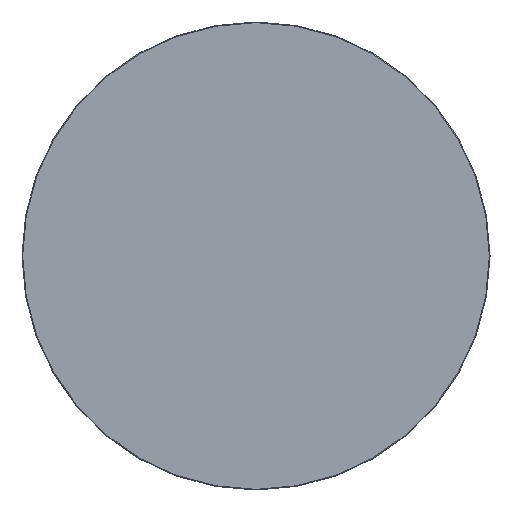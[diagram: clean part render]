
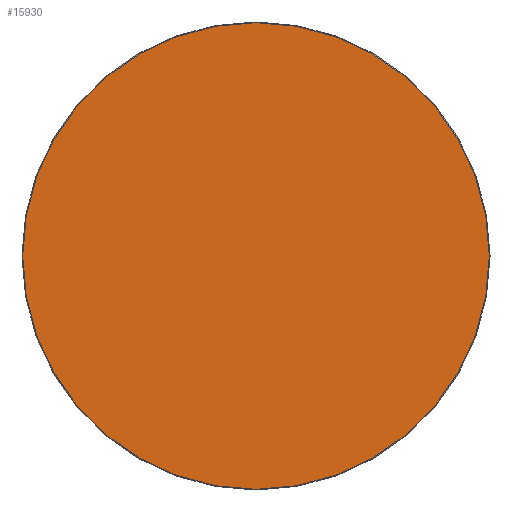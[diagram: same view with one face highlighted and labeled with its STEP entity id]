
A CAD part, top view. The second image highlights one B-rep face of the part: STEP entity #15930.
In plain terms, the highlighted planar face has unit normal (0, 0, 1).
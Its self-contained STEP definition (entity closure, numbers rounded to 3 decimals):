
#15855=CARTESIAN_POINT('',(0.,0.,20.));
#15856=DIRECTION('',(1.,0.,0.));
#15857=DIRECTION('',(0.,0.,1.));
#15858=AXIS2_PLACEMENT_3D('',#15855,#15857,#15856);
#15859=PLANE('',#15858);
#15860=CARTESIAN_POINT('',(-0.5,-498.5,20.));
#15861=VERTEX_POINT('',#15860);
#15862=CARTESIAN_POINT('',(0.5,-498.5,20.));
#15863=VERTEX_POINT('',#15862);
#15864=CARTESIAN_POINT('',(-0.5,-498.5,20.));
#15865=DIRECTION('',(1.,0.,0.));
#15866=VECTOR('',#15865,1.);
#15867=LINE('',#15864,#15866);
#15868=EDGE_CURVE('',#15861,#15863,#15867,.T.);
#15869=ORIENTED_EDGE('E105',*,*,#15868,.T.);
#15870=CARTESIAN_POINT('',(498.5,-0.5,20.));
#15871=VERTEX_POINT('',#15870);
#15872=CARTESIAN_POINT('',(0.5,-0.5,20.));
#15873=DIRECTION('',(0.,-1.,0.));
#15874=DIRECTION('',(0.,-0.,1.));
#15875=AXIS2_PLACEMENT_3D('',#15872,#15874,#15873);
#15876=CIRCLE('',#15875,498.);
#15877=EDGE_CURVE('',#15863,#15871,#15876,.T.);
#15878=ORIENTED_EDGE('E107',*,*,#15877,.T.);
#15879=CARTESIAN_POINT('',(498.5,0.5,20.));
#15880=VERTEX_POINT('',#15879);
#15881=CARTESIAN_POINT('',(498.5,-0.5,20.));
#15882=DIRECTION('',(0.,1.,0.));
#15883=VECTOR('',#15882,1.);
#15884=LINE('',#15881,#15883);
#15885=EDGE_CURVE('',#15871,#15880,#15884,.T.);
#15886=ORIENTED_EDGE('E109',*,*,#15885,.T.);
#15887=CARTESIAN_POINT('',(0.5,498.5,20.));
#15888=VERTEX_POINT('',#15887);
#15889=CARTESIAN_POINT('',(0.5,0.5,20.));
#15890=DIRECTION('',(1.,0.,0.));
#15891=DIRECTION('',(0.,0.,1.));
#15892=AXIS2_PLACEMENT_3D('',#15889,#15891,#15890);
#15893=CIRCLE('',#15892,498.);
#15894=EDGE_CURVE('',#15880,#15888,#15893,.T.);
#15895=ORIENTED_EDGE('E111',*,*,#15894,.T.);
#15896=CARTESIAN_POINT('',(-0.5,498.5,20.));
#15897=VERTEX_POINT('',#15896);
#15898=CARTESIAN_POINT('',(0.5,498.5,20.));
#15899=DIRECTION('',(-1.,0.,0.));
#15900=VECTOR('',#15899,1.);
#15901=LINE('',#15898,#15900);
#15902=EDGE_CURVE('',#15888,#15897,#15901,.T.);
#15903=ORIENTED_EDGE('E113',*,*,#15902,.T.);
#15904=CARTESIAN_POINT('',(-498.5,0.5,20.));
#15905=VERTEX_POINT('',#15904);
#15906=CARTESIAN_POINT('',(-0.5,0.5,20.));
#15907=DIRECTION('',(0.,1.,0.));
#15908=DIRECTION('',(0.,0.,1.));
#15909=AXIS2_PLACEMENT_3D('',#15906,#15908,#15907);
#15910=CIRCLE('',#15909,498.);
#15911=EDGE_CURVE('',#15897,#15905,#15910,.T.);
#15912=ORIENTED_EDGE('E115',*,*,#15911,.T.);
#15913=CARTESIAN_POINT('',(-498.5,-0.5,20.));
#15914=VERTEX_POINT('',#15913);
#15915=CARTESIAN_POINT('',(-498.5,0.5,20.));
#15916=DIRECTION('',(0.,-1.,0.));
#15917=VECTOR('',#15916,1.);
#15918=LINE('',#15915,#15917);
#15919=EDGE_CURVE('',#15905,#15914,#15918,.T.);
#15920=ORIENTED_EDGE('E117',*,*,#15919,.T.);
#15921=CARTESIAN_POINT('',(-0.5,-0.5,20.));
#15922=DIRECTION('',(-1.,0.,0.));
#15923=DIRECTION('',(0.,0.,1.));
#15924=AXIS2_PLACEMENT_3D('',#15921,#15923,#15922);
#15925=CIRCLE('',#15924,498.);
#15926=EDGE_CURVE('',#15914,#15861,#15925,.T.);
#15927=ORIENTED_EDGE('E119',*,*,#15926,.T.);
#15928=EDGE_LOOP('',(#15869,#15878,#15886,#15895,#15903,#15912,#15920,#15927));
#15929=FACE_OUTER_BOUND('',#15928,.T.);
#15930=ADVANCED_FACE('F2',(#15929),#15859,.T.);
